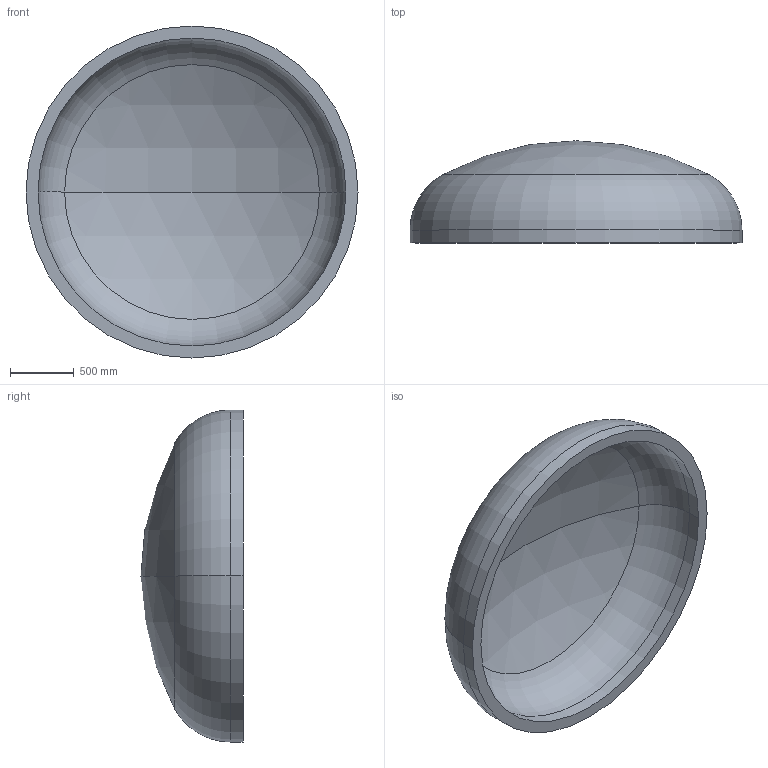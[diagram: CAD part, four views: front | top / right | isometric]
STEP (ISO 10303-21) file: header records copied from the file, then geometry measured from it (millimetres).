
FILE_DESCRIPTION (( 'STEP AP203' ), '1' );
FILE_NAME ('DIN 28013 Korbbogenform_-_Boden DIN 28013 - 2600 x 100 - I - s=94.step', '2016-07-01T16:29:37', ( '' ), ( '' ), 'SwSTEP 2.0', 'SolidWorks 2013', '' );
FILE_SCHEMA (( 'CONFIG_CONTROL_DESIGN' ));
Length unit declared in the file: millimetre
Products named in the file (1): DIN 28013 Korbbogenform_-_Boden DIN 28013 - 2600 x 100 - I - s=94
Bounding box: 2600 x 799.97 x 2600 mm (x, y, z)
Volume: 733350024.9 mm3; surface area: 16361739.4 mm2
Topology: 1 solids, 1 shells, 13 faces, 24 edges, 14 vertices
Faces by surface type: torus 4, cylinder 4, sphere 4, plane 1
Entity records: 407 total; most frequent: DIRECTION 72, CARTESIAN_POINT 52, ORIENTED_EDGE 48, AXIS2_PLACEMENT_3D 34, EDGE_CURVE 24, CIRCLE 20, VERTEX_POINT 14, EDGE_LOOP 14
